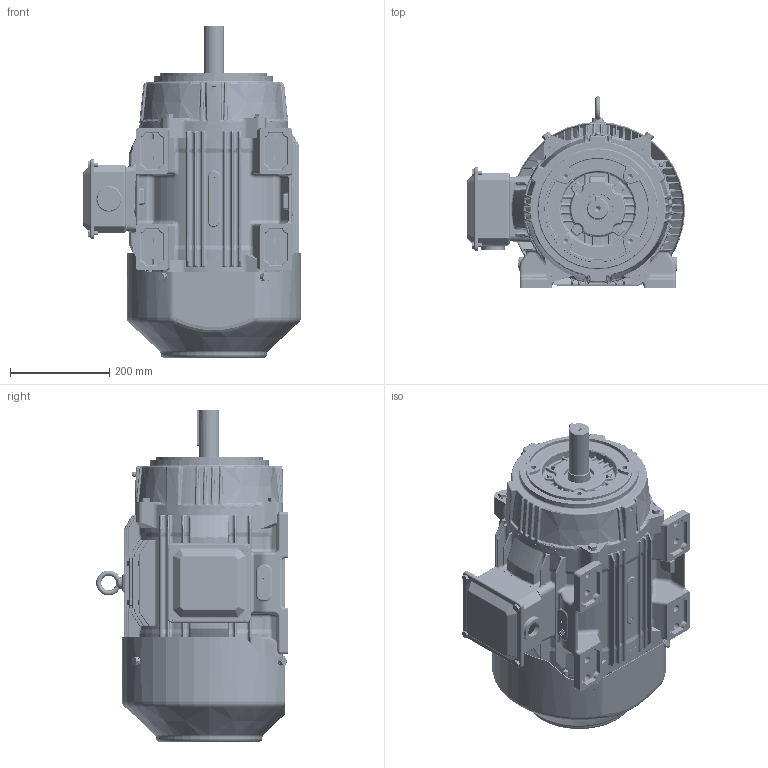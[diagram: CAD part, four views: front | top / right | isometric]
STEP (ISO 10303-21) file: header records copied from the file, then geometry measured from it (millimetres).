
FILE_DESCRIPTION (( 'STEP AP203' ), '1' );
FILE_NAME ('SS620700-200_RevC.STEP', '2023-01-27T07:16:29', ( '' ), ( '' ), 'SwSTEP 2.0', 'SolidWorks 2021', '' );
FILE_SCHEMA (( 'CONFIG_CONTROL_DESIGN' ));
Products named in the file (1): SS620700-200_RevC
Bounding box: 440 x 386.8 x 670.3 mm (x, y, z)
Volume: 8894110.1 mm3; surface area: 2624415.5 mm2
Topology: 45 solids, 45 shells, 7383 faces, 17876 edges, 10422 vertices
Faces by surface type: bspline 2232, cylinder 2059, plane 1108, torus 1081, cone 585, sphere 318
Entity records: 284433 total; most frequent: CARTESIAN_POINT 127598, ORIENTED_EDGE 35162, DIRECTION 30725, EDGE_CURVE 17581, AXIS2_PLACEMENT_3D 13268, VERTEX_POINT 10388, CIRCLE 8116, EDGE_LOOP 7813
